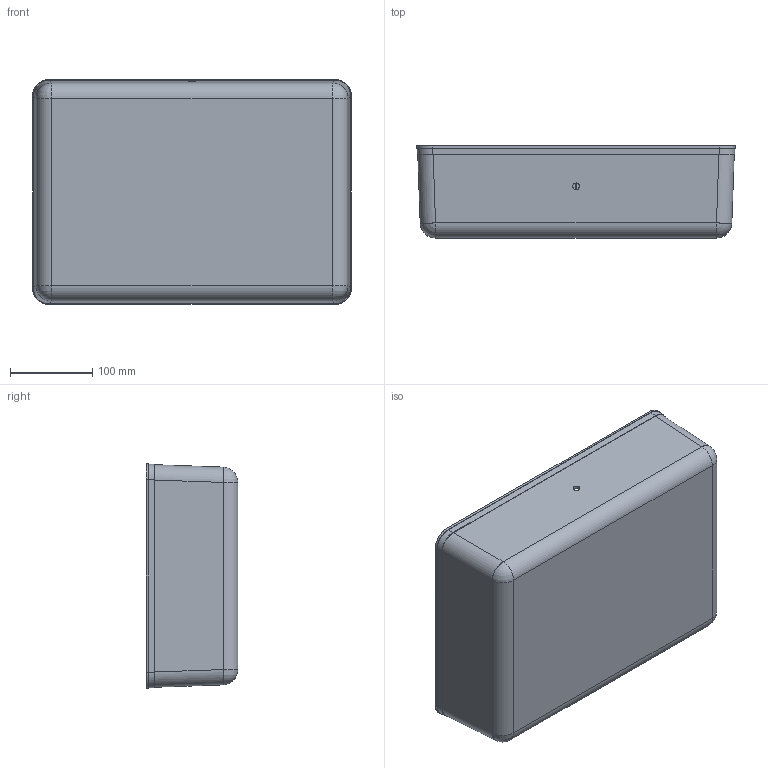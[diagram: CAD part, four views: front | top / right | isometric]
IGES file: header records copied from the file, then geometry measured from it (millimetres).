
Start section: SolidWorks IGES file using analytic representation for surfaces
Global section: file name: C:\temp\EU files dimensions 12-14-15\EU case files in pdf and DXF format\1450 Peli Case Bottom.IGS; native system: SolidWorks 2014; preprocessor: SolidWorks 2014; author: mhakami; date: 160110.174710; units: inch
Bounding box: 388 x 111.76 x 273.7 mm (x, y, z)
Surface area: 463189.6 mm2 (no closed solid volume)
Topology: 0 solids, 0 shells, 103 faces, 1764 edges, 1764 vertices
Faces by surface type: bspline 55, revolution 48
